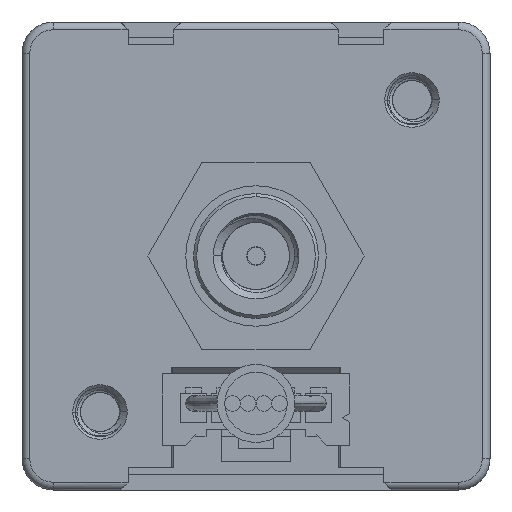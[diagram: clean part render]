
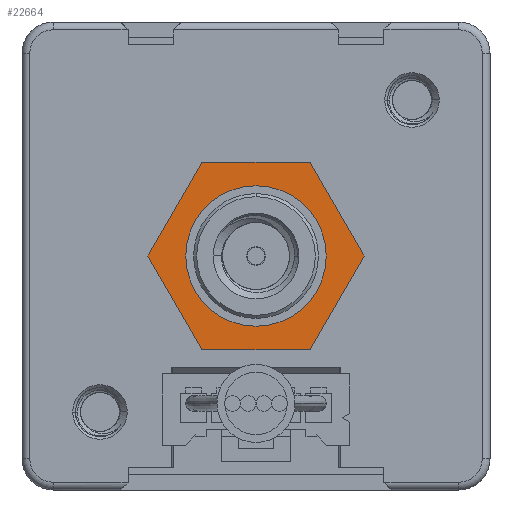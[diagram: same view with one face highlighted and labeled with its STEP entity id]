
A CAD part, front view. The second image highlights one B-rep face of the part: STEP entity #22664.
In plain terms, the highlighted planar face has unit normal (0, -1, 0).
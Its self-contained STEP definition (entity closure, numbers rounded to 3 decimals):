
#7155=DIRECTION('',(-1.,0.,0.));
#7156=VECTOR('',#7155,6.928);
#7157=CARTESIAN_POINT('',(3.464,1.,6.));
#7158=LINE('',#7157,#7156);
#7159=DIRECTION('',(-0.5,0.,0.866));
#7160=VECTOR('',#7159,6.928);
#7161=CARTESIAN_POINT('',(6.928,1.,0.));
#7162=LINE('',#7161,#7160);
#7163=DIRECTION('',(0.5,0.,0.866));
#7164=VECTOR('',#7163,6.928);
#7165=CARTESIAN_POINT('',(3.464,1.,-6.));
#7166=LINE('',#7165,#7164);
#7167=DIRECTION('',(1.,0.,0.));
#7168=VECTOR('',#7167,6.928);
#7169=CARTESIAN_POINT('',(-3.464,1.,-6.));
#7170=LINE('',#7169,#7168);
#7171=DIRECTION('',(0.5,0.,-0.866));
#7172=VECTOR('',#7171,6.928);
#7173=CARTESIAN_POINT('',(-6.928,1.,0.));
#7174=LINE('',#7173,#7172);
#7175=DIRECTION('',(-0.5,0.,-0.866));
#7176=VECTOR('',#7175,6.928);
#7177=CARTESIAN_POINT('',(-3.464,1.,6.));
#7178=LINE('',#7177,#7176);
#7179=CARTESIAN_POINT('',(0.,1.,0.));
#7180=DIRECTION('',(0.,1.,0.));
#7181=DIRECTION('',(0.,0.,-1.));
#7182=AXIS2_PLACEMENT_3D('',#7179,#7180,#7181);
#7184=CARTESIAN_POINT('',(0.,1.,0.));
#7185=DIRECTION('',(0.,1.,0.));
#7186=DIRECTION('',(0.,0.,1.));
#7187=AXIS2_PLACEMENT_3D('',#7184,#7185,#7186);
#12343=CARTESIAN_POINT('',(3.464,1.,6.));
#12344=CARTESIAN_POINT('',(-3.464,1.,6.));
#12345=VERTEX_POINT('',#12343);
#12346=VERTEX_POINT('',#12344);
#12347=CARTESIAN_POINT('',(-6.928,1.,0.));
#12348=VERTEX_POINT('',#12347);
#12349=CARTESIAN_POINT('',(-3.464,1.,-6.));
#12350=VERTEX_POINT('',#12349);
#12351=CARTESIAN_POINT('',(3.464,1.,-6.));
#12352=VERTEX_POINT('',#12351);
#12353=CARTESIAN_POINT('',(6.928,1.,0.));
#12354=VERTEX_POINT('',#12353);
#12461=CARTESIAN_POINT('',(0.,1.,-4.5));
#12462=CARTESIAN_POINT('',(0.,1.,4.5));
#12463=VERTEX_POINT('',#12461);
#12464=VERTEX_POINT('',#12462);
#22645=CARTESIAN_POINT('',(0.,1.,0.));
#22646=DIRECTION('',(0.,-1.,0.));
#22647=DIRECTION('',(0.,0.,1.));
#22648=AXIS2_PLACEMENT_3D('',#22645,#22646,#22647);
#22649=PLANE('',#22648);
#22650=ORIENTED_EDGE('',*,*,#22569,.F.);
#22651=ORIENTED_EDGE('',*,*,#22584,.F.);
#22652=ORIENTED_EDGE('',*,*,#22598,.F.);
#22653=ORIENTED_EDGE('',*,*,#22612,.F.);
#22654=ORIENTED_EDGE('',*,*,#22626,.F.);
#22655=ORIENTED_EDGE('',*,*,#22639,.F.);
#22656=EDGE_LOOP('',(#22650,#22651,#22652,#22653,#22654,#22655));
#22657=FACE_OUTER_BOUND('',#22656,.F.);
#22659=ORIENTED_EDGE('',*,*,#22658,.F.);
#22661=ORIENTED_EDGE('',*,*,#22660,.F.);
#22662=EDGE_LOOP('',(#22659,#22661));
#22663=FACE_BOUND('',#22662,.F.);
#22664=ADVANCED_FACE('',(#22657,#22663),#22649,.T.);
#7183=CIRCLE('',#7182,4.5);
#7188=CIRCLE('',#7187,4.5);
#22569=EDGE_CURVE('',#12345,#12346,#7158,.T.);
#22584=EDGE_CURVE('',#12354,#12345,#7162,.T.);
#22598=EDGE_CURVE('',#12352,#12354,#7166,.T.);
#22612=EDGE_CURVE('',#12350,#12352,#7170,.T.);
#22626=EDGE_CURVE('',#12348,#12350,#7174,.T.);
#22639=EDGE_CURVE('',#12346,#12348,#7178,.T.);
#22658=EDGE_CURVE('',#12463,#12464,#7183,.T.);
#22660=EDGE_CURVE('',#12464,#12463,#7188,.T.);
